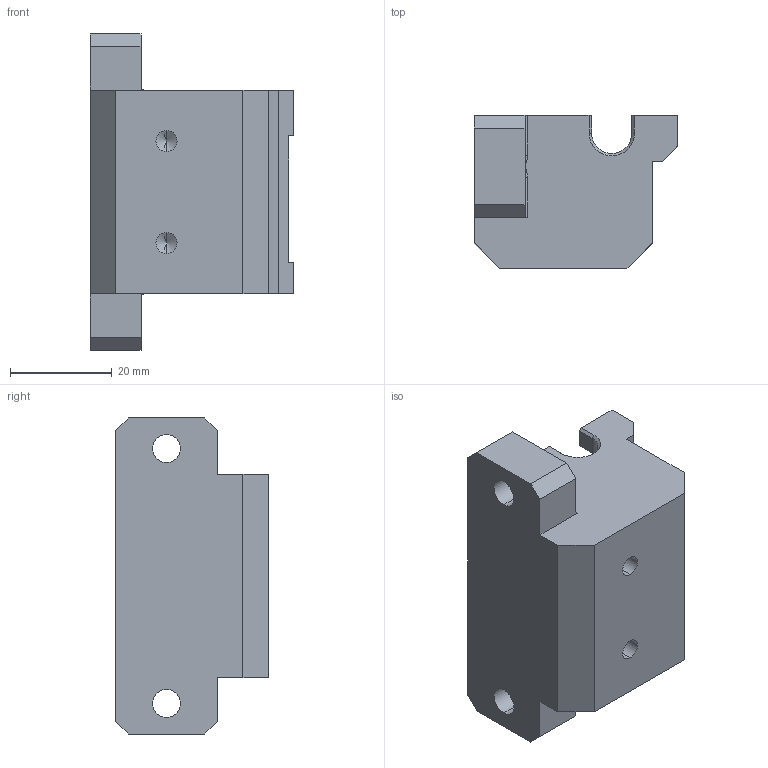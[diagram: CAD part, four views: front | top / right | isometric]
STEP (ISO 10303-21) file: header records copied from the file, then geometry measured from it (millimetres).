
FILE_DESCRIPTION (( 'STEP AP214' ), '1' );
FILE_NAME ('TAT0010043-11-B1固定座.STEP', '2021-04-23T05:24:36', ( '微软中国' ), ( 'Microsoft' ), 'SwSTEP 2.0', 'SolidWorks 2017', '' );
FILE_SCHEMA (( 'AUTOMOTIVE_DESIGN' ));
Length unit declared in the file: millimetre
Products named in the file (1): TAT0010043-11-B1嘐隅釱
Bounding box: 40 x 30 x 62 mm (x, y, z)
Volume: 37880.7 mm3; surface area: 10389.2 mm2
Topology: 1 solids, 1 shells, 124 faces, 341 edges, 211 vertices
Faces by surface type: plane 67, cylinder 35, cone 18, bspline 4
Entity records: 4066 total; most frequent: CARTESIAN_POINT 825, ORIENTED_EDGE 658, DIRECTION 646, EDGE_CURVE 329, VECTOR 222, LINE 222, AXIS2_PLACEMENT_3D 212, VERTEX_POINT 211
